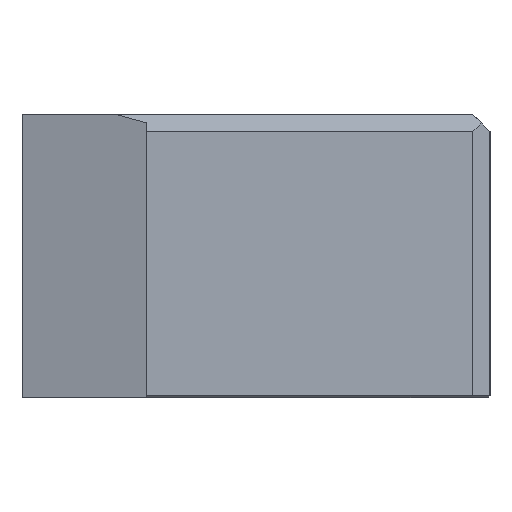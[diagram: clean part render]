
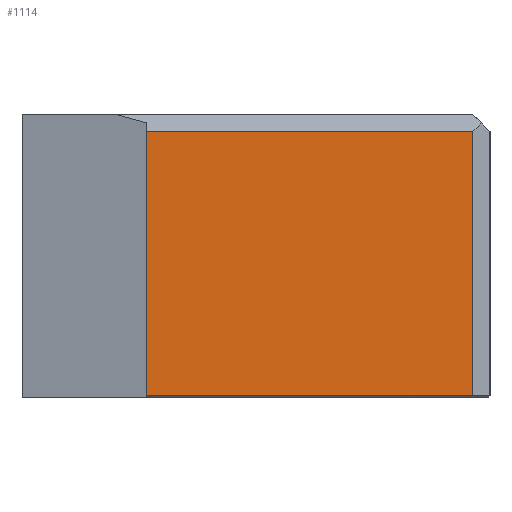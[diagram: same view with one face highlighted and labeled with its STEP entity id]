
A CAD part, left-side view. The second image highlights one B-rep face of the part: STEP entity #1114.
In plain terms, the highlighted planar face has unit normal (-1, 0, 0).
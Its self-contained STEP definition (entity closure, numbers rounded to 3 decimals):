
#339=DIRECTION('',(0.,1.,0.));
#340=VECTOR('',#339,38.);
#341=CARTESIAN_POINT('',(-62.,-25.25,-16.3));
#342=LINE('',#341,#340);
#343=DIRECTION('',(0.,0.,1.));
#344=VECTOR('',#343,30.8);
#345=CARTESIAN_POINT('',(-62.,12.75,-16.3));
#346=LINE('',#345,#344);
#347=DIRECTION('',(0.,-1.,0.));
#348=VECTOR('',#347,38.);
#349=CARTESIAN_POINT('',(-62.,12.75,14.5));
#350=LINE('',#349,#348);
#351=DIRECTION('',(0.,0.,-1.));
#352=VECTOR('',#351,30.8);
#353=CARTESIAN_POINT('',(-62.,-25.25,14.5));
#354=LINE('',#353,#352);
#520=CARTESIAN_POINT('',(-62.,12.75,14.5));
#522=VERTEX_POINT('',#520);
#526=CARTESIAN_POINT('',(-62.,-25.25,14.5));
#527=VERTEX_POINT('',#526);
#600=CARTESIAN_POINT('',(-62.,-25.25,-16.3));
#601=VERTEX_POINT('',#600);
#603=CARTESIAN_POINT('',(-62.,12.75,-16.3));
#605=VERTEX_POINT('',#603);
#1103=CARTESIAN_POINT('',(-62.,27.25,-16.5));
#1104=DIRECTION('',(-1.,0.,0.));
#1105=DIRECTION('',(0.,-1.,0.));
#1106=AXIS2_PLACEMENT_3D('',#1103,#1104,#1105);
#1107=PLANE('',#1106);
#1108=ORIENTED_EDGE('',*,*,#1051,.T.);
#1109=ORIENTED_EDGE('',*,*,#1069,.T.);
#1110=ORIENTED_EDGE('',*,*,#1095,.T.);
#1111=ORIENTED_EDGE('',*,*,#1022,.T.);
#1112=EDGE_LOOP('',(#1108,#1109,#1110,#1111));
#1113=FACE_OUTER_BOUND('',#1112,.F.);
#1114=ADVANCED_FACE('',(#1113),#1107,.T.);
#1022=EDGE_CURVE('',#527,#601,#354,.T.);
#1051=EDGE_CURVE('',#601,#605,#342,.T.);
#1069=EDGE_CURVE('',#605,#522,#346,.T.);
#1095=EDGE_CURVE('',#522,#527,#350,.T.);
